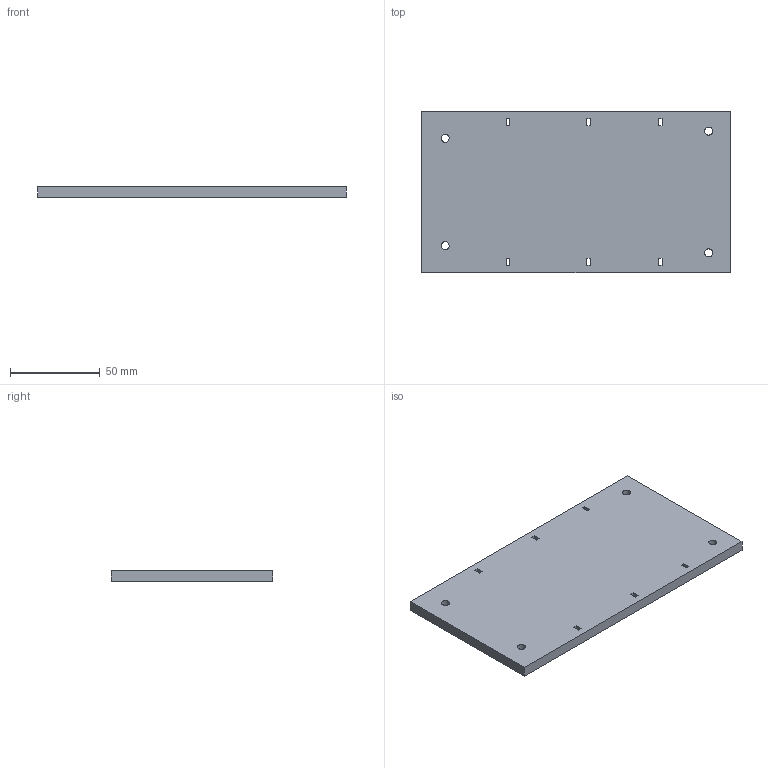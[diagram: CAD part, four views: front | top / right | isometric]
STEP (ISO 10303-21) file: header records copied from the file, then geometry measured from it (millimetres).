
FILE_DESCRIPTION(('Open CASCADE Model'),'2;1');
FILE_NAME('Open CASCADE Shape Model','2026-11-11T10:44:56',('Author'),( 'Open CASCADE'),'Open CASCADE STEP processor 7.9','Open CASCADE 7.9' ,'Unknown');
FILE_SCHEMA(('AUTOMOTIVE_DESIGN { 1 0 10303 214 1 1 1 1 }'));
Length unit declared in the file: millimetre
Products named in the file (1): Open CASCADE STEP translator 7.9 3
Bounding box: 172 x 90 x 6 mm (x, y, z)
Volume: 92210.3 mm3; surface area: 34652.1 mm2
Topology: 1 solids, 1 shells, 34 faces, 96 edges, 64 vertices
Faces by surface type: plane 30, cylinder 4
Full cylindrical faces by diameter (mm): 4.5 x4
Entity records: 2386 total; most frequent: CARTESIAN_POINT 387, DIRECTION 366, LINE 272, VECTOR 272, ORIENTED_EDGE 192, PCURVE 192, DEFINITIONAL_REPRESENTATION 192, EDGE_CURVE 96
